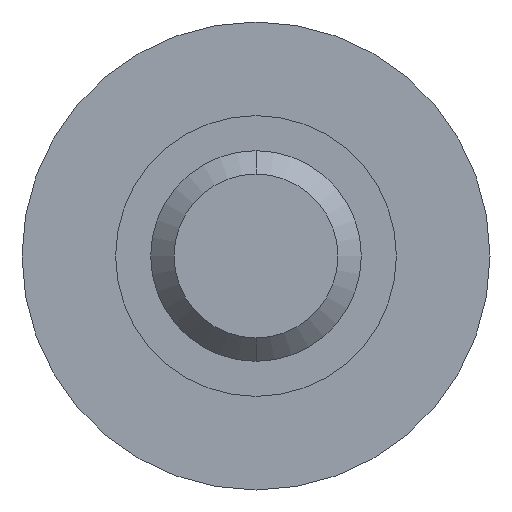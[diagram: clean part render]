
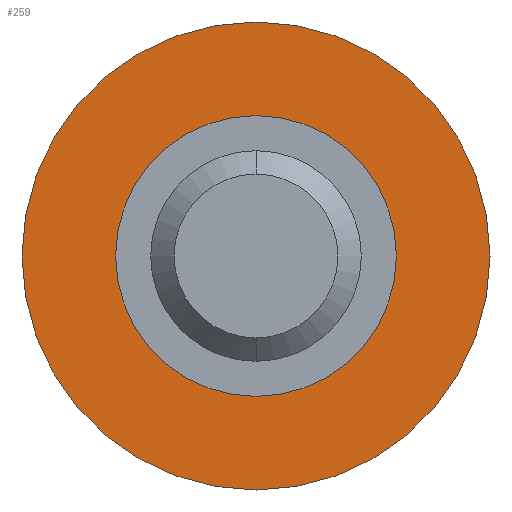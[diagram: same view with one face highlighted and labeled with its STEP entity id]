
A CAD part, front view. The second image highlights one B-rep face of the part: STEP entity #259.
In plain terms, the highlighted planar face has unit normal (0, -1, 0).
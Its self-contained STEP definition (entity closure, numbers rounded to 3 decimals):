
#66=CARTESIAN_POINT('',(0.,-0.5,0.));
#67=DIRECTION('',(0.,-1.,0.));
#68=DIRECTION('',(0.,0.,-1.));
#69=AXIS2_PLACEMENT_3D('',#66,#67,#68);
#71=CARTESIAN_POINT('',(0.,-0.5,0.));
#72=DIRECTION('',(0.,-1.,0.));
#73=DIRECTION('',(0.,0.,1.));
#74=AXIS2_PLACEMENT_3D('',#71,#72,#73);
#76=CARTESIAN_POINT('',(0.,-0.5,0.));
#77=DIRECTION('',(0.,1.,0.));
#78=DIRECTION('',(0.,0.,-1.));
#79=AXIS2_PLACEMENT_3D('',#76,#77,#78);
#81=CARTESIAN_POINT('',(0.,-0.5,0.));
#82=DIRECTION('',(0.,1.,0.));
#83=DIRECTION('',(0.,0.,1.));
#84=AXIS2_PLACEMENT_3D('',#81,#82,#83);
#113=CARTESIAN_POINT('',(0.,-0.5,1.));
#115=VERTEX_POINT('',#113);
#120=CARTESIAN_POINT('',(0.,-0.5,-0.6));
#121=VERTEX_POINT('',#120);
#122=CARTESIAN_POINT('',(0.,-0.5,0.6));
#123=VERTEX_POINT('',#122);
#124=CARTESIAN_POINT('',(0.,-0.5,-1.));
#125=VERTEX_POINT('',#124);
#244=CARTESIAN_POINT('',(0.,-0.5,0.));
#245=DIRECTION('',(0.,1.,0.));
#246=DIRECTION('',(0.,0.,1.));
#247=AXIS2_PLACEMENT_3D('',#244,#245,#246);
#248=PLANE('',#247);
#250=ORIENTED_EDGE('',*,*,#249,.F.);
#252=ORIENTED_EDGE('',*,*,#251,.F.);
#253=EDGE_LOOP('',(#250,#252));
#254=FACE_OUTER_BOUND('',#253,.F.);
#255=ORIENTED_EDGE('',*,*,#223,.F.);
#256=ORIENTED_EDGE('',*,*,#238,.F.);
#257=EDGE_LOOP('',(#255,#256));
#258=FACE_BOUND('',#257,.F.);
#259=ADVANCED_FACE('',(#254,#258),#248,.F.);
#70=CIRCLE('',#69,1.);
#75=CIRCLE('',#74,1.);
#80=CIRCLE('',#79,0.6);
#85=CIRCLE('',#84,0.6);
#223=EDGE_CURVE('',#121,#123,#80,.T.);
#238=EDGE_CURVE('',#123,#121,#85,.T.);
#249=EDGE_CURVE('',#125,#115,#70,.T.);
#251=EDGE_CURVE('',#115,#125,#75,.T.);
